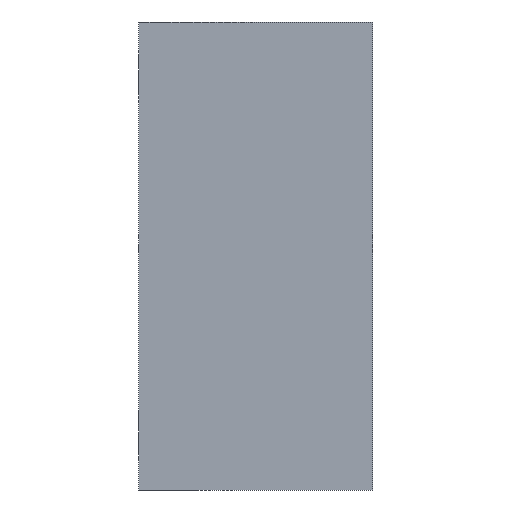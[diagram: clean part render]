
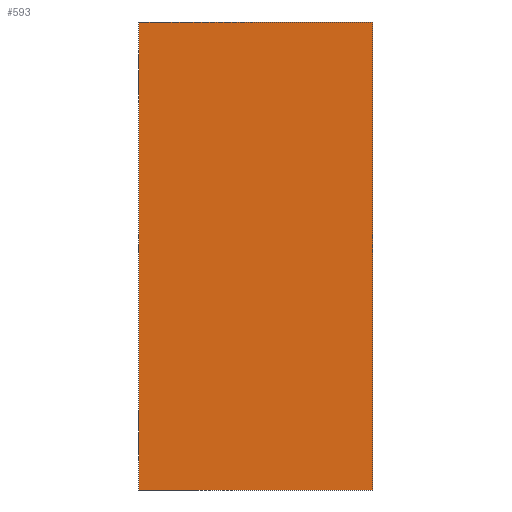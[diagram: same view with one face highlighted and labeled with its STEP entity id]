
A CAD part, left-side view. The second image highlights one B-rep face of the part: STEP entity #593.
In plain terms, the highlighted planar face has unit normal (-1, 0, 0).
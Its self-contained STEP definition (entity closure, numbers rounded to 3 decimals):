
#35 = VECTOR ( 'NONE', #249, 1000. ) ;
#41 = FACE_OUTER_BOUND ( 'NONE', #493, .T. ) ;
#52 = VERTEX_POINT ( 'NONE', #875 ) ;
#57 = DIRECTION ( 'NONE',  ( 0., 0., 1. ) ) ;
#60 = VERTEX_POINT ( 'NONE', #669 ) ;
#104 = VECTOR ( 'NONE', #57, 1000. ) ;
#121 = LINE ( 'NONE', #146, #828 ) ;
#141 = DIRECTION ( 'NONE',  ( -1., 0., 0. ) ) ;
#146 = CARTESIAN_POINT ( 'NONE',  ( 0., -15., 30. ) ) ;
#152 = CARTESIAN_POINT ( 'NONE',  ( 0., 15., 30. ) ) ;
#249 = DIRECTION ( 'NONE',  ( 0., 0., -1. ) ) ;
#293 = LINE ( 'NONE', #896, #104 ) ;
#294 = EDGE_CURVE ( 'NONE', #553, #52, #463, .T. ) ;
#386 = EDGE_CURVE ( 'NONE', #534, #553, #121, .T. ) ;
#463 = LINE ( 'NONE', #600, #35 ) ;
#474 = ORIENTED_EDGE ( 'NONE', *, *, #386, .F. ) ;
#493 = EDGE_LOOP ( 'NONE', ( #822, #843, #474, #502 ) ) ;
#497 = CARTESIAN_POINT ( 'NONE',  ( 0., -15., 30. ) ) ;
#502 = ORIENTED_EDGE ( 'NONE', *, *, #652, .F. ) ;
#534 = VERTEX_POINT ( 'NONE', #152 ) ;
#547 = VECTOR ( 'NONE', #680, 1000. ) ;
#553 = VERTEX_POINT ( 'NONE', #497 ) ;
#555 = CARTESIAN_POINT ( 'NONE',  ( 0., 15., -30. ) ) ;
#580 = LINE ( 'NONE', #883, #547 ) ;
#593 = ADVANCED_FACE ( 'NONE', ( #41 ), #747, .T. ) ;
#600 = CARTESIAN_POINT ( 'NONE',  ( 0., -15., 30. ) ) ;
#626 = DIRECTION ( 'NONE',  ( 0., 0., 1. ) ) ;
#632 = DIRECTION ( 'NONE',  ( 0., -1., 0. ) ) ;
#652 = EDGE_CURVE ( 'NONE', #60, #534, #293, .T. ) ;
#669 = CARTESIAN_POINT ( 'NONE',  ( 0., 15., -30. ) ) ;
#680 = DIRECTION ( 'NONE',  ( 0., 1., 0. ) ) ;
#747 = PLANE ( 'NONE',  #784 ) ;
#784 = AXIS2_PLACEMENT_3D ( 'NONE', #555, #141, #626 ) ;
#822 = ORIENTED_EDGE ( 'NONE', *, *, #844, .F. ) ;
#828 = VECTOR ( 'NONE', #632, 1000. ) ;
#843 = ORIENTED_EDGE ( 'NONE', *, *, #294, .F. ) ;
#844 = EDGE_CURVE ( 'NONE', #52, #60, #580, .T. ) ;
#875 = CARTESIAN_POINT ( 'NONE',  ( 0., -15., -30. ) ) ;
#883 = CARTESIAN_POINT ( 'NONE',  ( 0., -15., -30. ) ) ;
#896 = CARTESIAN_POINT ( 'NONE',  ( 0., 15., 30. ) ) ;
